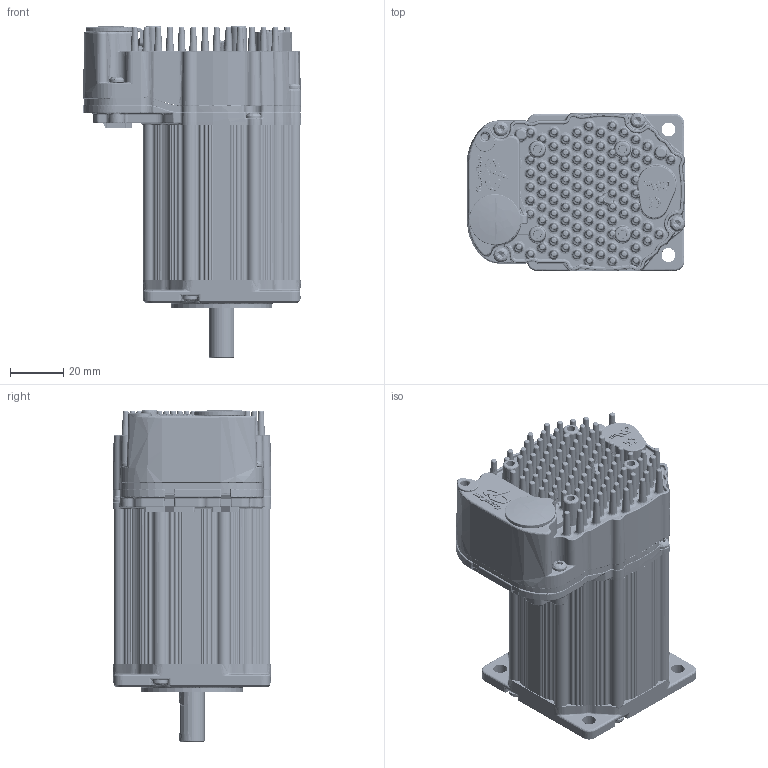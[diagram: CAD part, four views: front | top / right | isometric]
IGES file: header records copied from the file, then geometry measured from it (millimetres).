
Start section: SolidWorks IGES file using analytic representation for surfaces
Global section: file name: C:\TeknicPDM\Clearpath\Customer Downloadable Files\CPM-_ _ _ _ -232x_-LS.IGS; native system: SolidWorks 2020; preprocessor: SolidWorks 2020; author: matt_ciminelli; date: 220624.080248; units: inch
Bounding box: 81.98 x 59.69 x 124.7 mm (x, y, z)
Surface area: 67917.4 mm2 (no closed solid volume)
Topology: 0 solids, 0 shells, 7359 faces, 71917 edges, 71659 vertices
Faces by surface type: revolution 3865, bspline 3494
